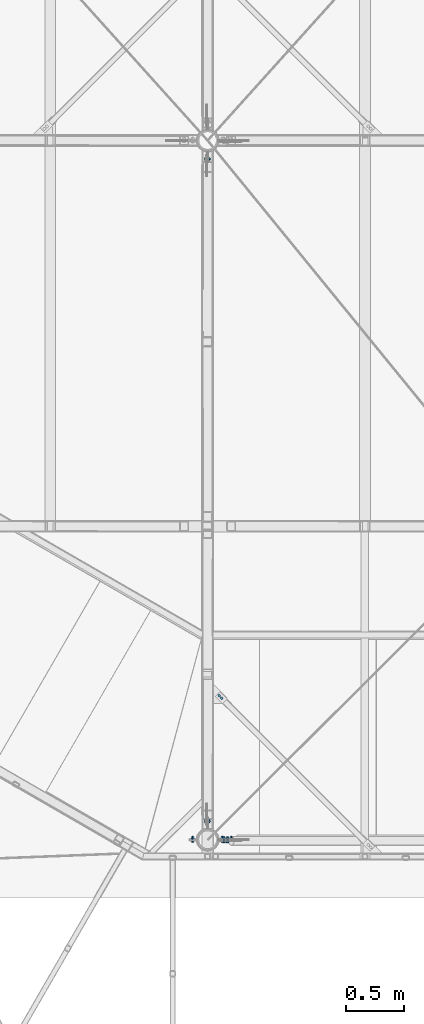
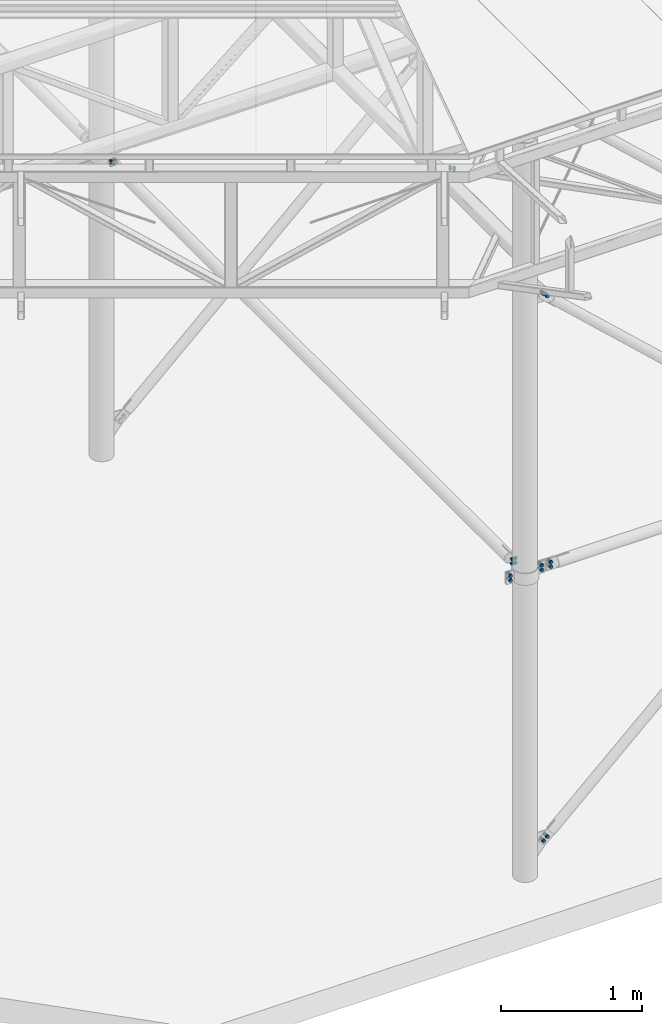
# One storey, part 97 of 132: 8 mechanical fasteners, 6 elements without a shape of their own.
"""IFC2X3 building model written with IfcOpenShell, lengths in millimetres."""

from ifc_helpers import new_model, si_unit, frame, origin_with_axes, origin_2d_with_axis, place, context, subcontext, project, spatial, polyline, circle, outline, extrude, source, transform, mapped, material, type_object, element, aggregate, save


model = new_model("IFC2X3")

# Units and contexts
model_context = context("Model", 3, precision=1e-05, world=origin_with_axes())
body_context = subcontext(model_context, "Body", "Model", "MODEL_VIEW")
ifc_project = project(units=[si_unit("LENGTHUNIT", "METRE", prefix="MILLI"), si_unit("AREAUNIT", "SQUARE_METRE"), si_unit("VOLUMEUNIT", "CUBIC_METRE"), si_unit("MASSUNIT", "GRAM", prefix="KILO"), si_unit("TIMEUNIT", "SECOND"), si_unit("PLANEANGLEUNIT", "RADIAN"), si_unit("SOLIDANGLEUNIT", "STERADIAN"), si_unit("THERMODYNAMICTEMPERATUREUNIT", "DEGREE_CELSIUS"), si_unit("LUMINOUSINTENSITYUNIT", "LUMEN")], contexts=[model_context])

# Site, building, storey
site_placement = place(None, origin_with_axes())
site = spatial("IfcSite", under=ifc_project, at=site_placement, Name="Budowa", CompositionType="ELEMENT")
building_placement = place(site_placement, origin_with_axes())
building = spatial("IfcBuilding", under=site, at=building_placement, Name="Undefined", CompositionType="ELEMENT")
storey_placement = place(building_placement, origin_with_axes())
storey = spatial("IfcBuildingStorey", under=building, at=storey_placement, Name="Undefined", CompositionType="ELEMENT", Elevation=0.0)

# Assembly, mechanical fastener
assembly_1_placement = place(storey_placement, origin_with_axes())
assembly_1 = element("IfcElementAssembly", 1, at=assembly_1_placement, inside=storey, Name="Steel Assembly", AssemblyPlace="NOTDEFINED", PredefinedType="RIGID_FRAME")
ifc_material = material(Name="Undefined")
discrete_accessory_type = type_object("IfcDiscreteAccessoryType", Name="Bolt assembly")
shared_shape_1 = source(origin_with_axes(), body_context, "Body", "SweptSolid", [
    extrude(circle(Radius=9.0, at=origin_2d_with_axis()), frame((0.0, 0.0999999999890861, 0.0), z_axis=(0.0, 1.0, 0.0), x_axis=(1.0, 0.0, 0.0)), (0.0, 0.0, 1.0), 8.0),
    extrude(circle(Radius=9.0, at=origin_2d_with_axis()), frame((0.0, 11.9000000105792, 0.0), z_axis=(0.0, 1.0, 0.0), x_axis=(1.0, 0.0, 0.0)), (0.0, 0.0, 1.0), 8.1),
    extrude(outline(polyline([(13.85640646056, 0.0), (6.92820323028, 12.0000000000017), (-6.92820323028, 12.0000000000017), (-13.85640646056, 0.0), (-6.92820323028, -12.0000000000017), (6.92820323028, -12.0000000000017), (13.85640646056, 0.0)])), frame((0.0, -13.0, 0.0), z_axis=(0.0, 1.0, 0.0), x_axis=(1.0, 0.0, 0.0)), (0.0, 0.0, 1.0), 10.0),
    extrude(circle(Radius=8.0, at=origin_2d_with_axis()), frame((0.0, -2.99999999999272, 0.0), z_axis=(0.0, 1.0, 0.0), x_axis=(1.0, 0.0, 0.0)), (0.0, 0.0, 1.0), 45.0),
    extrude(circle(Radius=15.0, at=origin_2d_with_axis()), frame((0.0, -2.99999999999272, 0.0), z_axis=(0.0, 1.0, 0.0), x_axis=(1.0, 0.0, 0.0)), (0.0, 0.0, 1.0), 3.0),
    extrude(circle(Radius=15.0, at=origin_2d_with_axis()), frame((0.0, 20.0000000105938, 0.0), z_axis=(0.0, 1.0, 0.0), x_axis=(1.0, 0.0, 0.0)), (0.0, 0.0, 1.0), 3.0),
    extrude(outline(polyline([(13.85640646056, 0.0), (6.92820323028, 12.0000000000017), (-6.92820323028, 12.0000000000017), (-13.85640646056, 0.0), (-6.92820323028, -12.0000000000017), (6.92820323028, -12.0000000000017), (13.85640646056, 0.0)])), frame((0.0, 23.0000000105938, 0.0), z_axis=(0.0, 1.0, 0.0), x_axis=(1.0, 0.0, 0.0)), (0.0, 0.0, 1.0), 13.0),
])
mechanical_fastener_1_placement = place(assembly_1_placement, frame((9296.86328710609, -9.999999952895, 10096.0003779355), z_axis=(-1.0, 0.0, 0.0), x_axis=(0.0, 0.0, 1.0)))
mechanical_fastener_1 = element("IfcMechanicalFastener", 2, at=mechanical_fastener_1_placement, type_object=discrete_accessory_type, material=ifc_material, Name="Bolt assembly", NominalDiameter=16.0, NominalLength=45.0, context=body_context, shape_type="MappedRepresentation", body=[
    mapped(shared_shape_1, transform((0.0, 0.0, 0.0))),
    mapped(shared_shape_1, transform((40.0000000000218, 0.0, -1.81898940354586e-12))),
])

# Assembly, mechanical fasteners
assembly_2_placement = place(storey_placement, origin_with_axes())
assembly_2 = element("IfcElementAssembly", 3, at=assembly_2_placement, inside=storey, Name="Steel Assembly", AssemblyPlace="NOTDEFINED", PredefinedType="RIGID_FRAME")
shared_shape_2 = source(origin_with_axes(), body_context, "Body", "SweptSolid", [
    extrude(circle(Radius=9.0, at=origin_2d_with_axis()), frame((0.0, -4.09999999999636, 0.0), z_axis=(0.0, 1.0, 0.0), x_axis=(1.0, 0.0, 0.0)), (0.0, 0.0, 1.0), 8.1),
    extrude(circle(Radius=9.0, at=origin_2d_with_axis()), frame((0.0, -11.9, 0.0), z_axis=(0.0, 1.0, 0.0), x_axis=(1.0, 0.0, 0.0)), (0.0, 0.0, 1.0), 8.0),
    extrude(outline(polyline([(13.85640646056, 0.0), (6.92820323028, 12.0000000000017), (-6.92820323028, 12.0000000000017), (-13.85640646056, 0.0), (-6.92820323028, -12.0000000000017), (6.92820323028, -12.0000000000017), (13.85640646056, 0.0)])), frame((0.0, -25.0, 0.0), z_axis=(0.0, 1.0, 0.0), x_axis=(1.0, 0.0, 0.0)), (0.0, 0.0, 1.0), 10.0),
    extrude(circle(Radius=8.0, at=origin_2d_with_axis()), frame((0.0, -15.0, 0.0), z_axis=(0.0, 1.0, 0.0), x_axis=(1.0, 0.0, 0.0)), (0.0, 0.0, 1.0), 40.0),
    extrude(circle(Radius=15.0, at=origin_2d_with_axis()), frame((0.0, -15.0, 0.0), z_axis=(0.0, 1.0, 0.0), x_axis=(1.0, 0.0, 0.0)), (0.0, 0.0, 1.0), 3.0),
    extrude(circle(Radius=15.0, at=origin_2d_with_axis()), frame((0.0, 4.0, 0.0), z_axis=(0.0, 1.0, 0.0), x_axis=(1.0, 0.0, 0.0)), (0.0, 0.0, 1.0), 3.0),
    extrude(outline(polyline([(13.85640646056, 0.0), (6.92820323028, 12.0000000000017), (-6.92820323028, 12.0000000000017), (-13.85640646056, 0.0), (-6.92820323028, -12.0000000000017), (6.92820323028, -12.0000000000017), (13.85640646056, 0.0)])), frame((0.0, 7.0, 0.0), z_axis=(0.0, 1.0, 0.0), x_axis=(1.0, 0.0, 0.0)), (0.0, 0.0, 1.0), 13.0),
])
mechanical_fastener_2_placement = place(assembly_2_placement, frame((9425.0000024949, 5842.09209471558, 10116.0003779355), z_axis=(0.0, 0.0, 1.0), x_axis=(0.0, -1.0, 0.0)))
mechanical_fastener_2 = element("IfcMechanicalFastener", 4, at=mechanical_fastener_2_placement, type_object=discrete_accessory_type, material=ifc_material, Name="Bolt assembly", NominalDiameter=16.0, NominalLength=40.0, context=body_context, shape_type="MappedRepresentation", body=[
    mapped(shared_shape_2, transform((0.0, 0.0, -20.0))),
    mapped(shared_shape_2, transform((0.0, 0.0, 20.0))),
])
mechanical_fastener_3_placement = place(assembly_2_placement, frame((9425.00000277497, 157.907905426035, 10116.0003779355), z_axis=(0.0, 0.0, -1.0), x_axis=(0.0, 1.0, 0.0)))
mechanical_fastener_3 = element("IfcMechanicalFastener", 5, at=mechanical_fastener_3_placement, type_object=discrete_accessory_type, material=ifc_material, Name="Bolt assembly", NominalDiameter=16.0, NominalLength=40.0, context=body_context, shape_type="MappedRepresentation", body=[
    mapped(shared_shape_2, transform((0.0, 0.0, -20.0))),
    mapped(shared_shape_2, transform((0.0, 0.0, 20.0))),
])
aggregate(assembly_2, [mechanical_fastener_2, mechanical_fastener_3])

# Mechanical fastener
shared_shape_3 = source(origin_with_axes(), body_context, "Body", "SweptSolid", [
    extrude(circle(Radius=9.0, at=origin_2d_with_axis()), frame((0.0, 0.0999999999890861, 0.0), z_axis=(0.0, 1.0, 0.0), x_axis=(1.0, 0.0, 0.0)), (0.0, 0.0, 1.0), 8.0),
    extrude(circle(Radius=9.0, at=origin_2d_with_axis()), frame((0.0, 7.9000007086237, 0.0), z_axis=(0.0, 1.0, 0.0), x_axis=(1.0, 0.0, 0.0)), (0.0, 0.0, 1.0), 8.1),
    extrude(outline(polyline([(13.85640646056, 0.0), (6.92820323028, 12.0000000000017), (-6.92820323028, 12.0000000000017), (-13.85640646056, 0.0), (-6.92820323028, -12.0000000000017), (6.92820323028, -12.0000000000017), (13.85640646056, 0.0)])), frame((0.0, -13.0, 0.0), z_axis=(0.0, 1.0, 0.0), x_axis=(1.0, 0.0, 0.0)), (0.0, 0.0, 1.0), 10.0),
    extrude(circle(Radius=8.0, at=origin_2d_with_axis()), frame((0.0, -2.99999999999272, 0.0), z_axis=(0.0, 1.0, 0.0), x_axis=(1.0, 0.0, 0.0)), (0.0, 0.0, 1.0), 40.0),
    extrude(circle(Radius=15.0, at=origin_2d_with_axis()), frame((0.0, -2.99999999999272, 0.0), z_axis=(0.0, 1.0, 0.0), x_axis=(1.0, 0.0, 0.0)), (0.0, 0.0, 1.0), 3.0),
    extrude(circle(Radius=15.0, at=origin_2d_with_axis()), frame((0.0, 16.0000007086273, 0.0), z_axis=(0.0, 1.0, 0.0), x_axis=(1.0, 0.0, 0.0)), (0.0, 0.0, 1.0), 3.0),
    extrude(outline(polyline([(13.85640646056, 0.0), (6.92820323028, 12.0000000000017), (-6.92820323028, 12.0000000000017), (-13.85640646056, 0.0), (-6.92820323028, -12.0000000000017), (6.92820323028, -12.0000000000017), (13.85640646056, 0.0)])), frame((0.0, 19.0000007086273, 0.0), z_axis=(0.0, 1.0, 0.0), x_axis=(1.0, 0.0, 0.0)), (0.0, 0.0, 1.0), 13.0),
])
mechanical_fastener_4_placement = place(assembly_1_placement, frame((9628.13669408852, -6.00000054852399, 10096.0003779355), z_axis=(-1.0, 0.0, 0.0), x_axis=(0.0, 0.0, 1.0)))
mechanical_fastener_4 = element("IfcMechanicalFastener", 6, at=mechanical_fastener_4_placement, type_object=discrete_accessory_type, material=ifc_material, Name="Bolt assembly", NominalDiameter=16.0, NominalLength=40.0, context=body_context, shape_type="MappedRepresentation", body=[
    mapped(shared_shape_3, transform((0.0, 0.0, 0.0))),
    mapped(shared_shape_3, transform((40.0000000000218, 0.0, -1.81898940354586e-12))),
])

aggregate(assembly_1, [mechanical_fastener_4, mechanical_fastener_1])

# Assembly, mechanical fastener
assembly_3_placement = place(storey_placement, origin_with_axes())
assembly_3 = element("IfcElementAssembly", 7, at=assembly_3_placement, inside=storey, Name="Steel Assembly", AssemblyPlace="NOTDEFINED", PredefinedType="RIGID_FRAME")
shared_shape_4 = source(origin_with_axes(), body_context, "Body", "SweptSolid", [
    extrude(circle(Radius=9.0, at=origin_2d_with_axis()), frame((0.0, 11.9000000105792, 0.0), z_axis=(0.0, 1.0, 0.0), x_axis=(1.0, 0.0, 0.0)), (0.0, 0.0, 1.0), 8.1),
    extrude(circle(Radius=9.0, at=origin_2d_with_axis()), frame((0.0, 0.0999999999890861, 0.0), z_axis=(0.0, 1.0, 0.0), x_axis=(1.0, 0.0, 0.0)), (0.0, 0.0, 1.0), 8.0),
    extrude(outline(polyline([(13.85640646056, 0.0), (6.92820323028, 12.0000000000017), (-6.92820323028, 12.0000000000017), (-13.85640646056, 0.0), (-6.92820323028, -12.0000000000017), (6.92820323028, -12.0000000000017), (13.85640646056, 0.0)])), frame((0.0, -13.0, 0.0), z_axis=(0.0, 1.0, 0.0), x_axis=(1.0, 0.0, 0.0)), (0.0, 0.0, 1.0), 10.0),
    extrude(circle(Radius=8.0, at=origin_2d_with_axis()), frame((0.0, -2.99999999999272, 0.0), z_axis=(0.0, 1.0, 0.0), x_axis=(1.0, 0.0, 0.0)), (0.0, 0.0, 1.0), 45.0),
    extrude(circle(Radius=15.0, at=origin_2d_with_axis()), frame((0.0, -2.99999999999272, 0.0), z_axis=(0.0, 1.0, 0.0), x_axis=(1.0, 0.0, 0.0)), (0.0, 0.0, 1.0), 3.0),
    extrude(circle(Radius=15.0, at=origin_2d_with_axis()), frame((0.0, 20.0000000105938, 0.0), z_axis=(0.0, 1.0, 0.0), x_axis=(1.0, 0.0, 0.0)), (0.0, 0.0, 1.0), 3.0),
    extrude(outline(polyline([(13.85640646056, 0.0), (6.92820323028, 12.0000000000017), (-6.92820323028, 12.0000000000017), (-13.85640646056, 0.0), (-6.92820323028, -12.0000000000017), (6.92820323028, -12.0000000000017), (13.85640646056, 0.0)])), frame((0.0, 23.0000000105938, 0.0), z_axis=(0.0, 1.0, 0.0), x_axis=(1.0, 0.0, 0.0)), (0.0, 0.0, 1.0), 13.0),
])
mechanical_fastener_5_placement = place(assembly_3_placement, frame((9553.13669408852, -10.0000000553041, 10096.0003779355), z_axis=(-1.0, 0.0, 0.0), x_axis=(0.0, 0.0, 1.0)))
mechanical_fastener_5 = element("IfcMechanicalFastener", 8, at=mechanical_fastener_5_placement, type_object=discrete_accessory_type, material=ifc_material, Name="Bolt assembly", NominalDiameter=16.0, NominalLength=45.0, context=body_context, shape_type="MappedRepresentation", body=[
    mapped(shared_shape_4, transform((0.0, 0.0, 0.0))),
    mapped(shared_shape_4, transform((40.0000000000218, 0.0, -1.81898940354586e-12))),
])
aggregate(assembly_3, [mechanical_fastener_5])

assembly_4_placement = place(storey_placement, origin_with_axes())
assembly_4 = element("IfcElementAssembly", 9, at=assembly_4_placement, inside=storey, Name="Steel Assembly", AssemblyPlace="NOTDEFINED", PredefinedType="RIGID_FRAME")
shared_shape_5 = source(origin_with_axes(), body_context, "Body", "SweptSolid", [
    extrude(circle(Radius=9.5, at=origin_2d_with_axis()), frame((0.0, -2.10099750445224, 0.0), z_axis=(0.0, 1.0, 0.0), x_axis=(1.0, 0.0, 0.0)), (0.0, 0.0, 1.0), 8.1),
    extrude(circle(Radius=9.5, at=origin_2d_with_axis()), frame((0.0, -11.9, 0.0), z_axis=(0.0, 1.0, 0.0), x_axis=(1.0, 0.0, 0.0)), (0.0, 0.0, 1.0), 8.0),
    extrude(outline(polyline([(13.85640646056, 0.0), (6.92820323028, 12.0000000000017), (-6.92820323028, 12.0000000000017), (-13.85640646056, 0.0), (-6.92820323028, -12.0000000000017), (6.92820323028, -12.0000000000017), (13.85640646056, 0.0)])), frame((0.0, -25.0, 0.0), z_axis=(0.0, 1.0, 0.0), x_axis=(1.0, 0.0, 0.0)), (0.0, 0.0, 1.0), 10.0),
    extrude(circle(Radius=8.0, at=origin_2d_with_axis()), frame((0.0, -15.0, 0.0), z_axis=(0.0, 1.0, 0.0), x_axis=(1.0, 0.0, 0.0)), (0.0, 0.0, 1.0), 45.0),
    extrude(circle(Radius=15.0, at=origin_2d_with_axis()), frame((0.0, -15.0, 0.0), z_axis=(0.0, 1.0, 0.0), x_axis=(1.0, 0.0, 0.0)), (0.0, 0.0, 1.0), 3.0),
    extrude(circle(Radius=15.0, at=origin_2d_with_axis()), frame((0.0, 5.99900249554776, 0.0), z_axis=(0.0, 1.0, 0.0), x_axis=(1.0, 0.0, 0.0)), (0.0, 0.0, 1.0), 3.0),
    extrude(outline(polyline([(13.85640646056, 0.0), (6.92820323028, 12.0000000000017), (-6.92820323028, 12.0000000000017), (-13.85640646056, 0.0), (-6.92820323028, -12.0000000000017), (6.92820323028, -12.0000000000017), (13.85640646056, 0.0)])), frame((0.0, 8.99900249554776, 0.0), z_axis=(0.0, 1.0, 0.0), x_axis=(1.0, 0.0, 0.0)), (0.0, 0.0, 1.0), 13.0),
])
mechanical_fastener_6_placement = place(assembly_4_placement, frame((9565.67385240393, -2.00000237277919, 7751.79053481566), z_axis=(-0.678551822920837, 0.0, 0.734552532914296), x_axis=(0.734552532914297, 0.0, 0.678551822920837)))
mechanical_fastener_6 = element("IfcMechanicalFastener", 10, at=mechanical_fastener_6_placement, type_object=discrete_accessory_type, material=ifc_material, Name="Bolt assembly", NominalDiameter=16.0, NominalLength=45.0, context=body_context, shape_type="MappedRepresentation", body=[
    mapped(shared_shape_5, transform((0.0, 0.0, 0.0))),
    mapped(shared_shape_5, transform((40.0000000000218, 0.0, -1.81898940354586e-12))),
])
aggregate(assembly_4, [mechanical_fastener_6])

assembly_5_placement = place(storey_placement, origin_with_axes())
assembly_5 = element("IfcElementAssembly", 11, at=assembly_5_placement, inside=storey, Name="Steel Assembly", AssemblyPlace="NOTDEFINED", PredefinedType="RIGID_FRAME")
mechanical_fastener_7_placement = place(assembly_5_placement, frame((9565.67385217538, -2.00000247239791, 12480.2102217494), z_axis=(0.678551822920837, 0.0, 0.734552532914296), x_axis=(0.734552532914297, 0.0, -0.678551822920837)))
mechanical_fastener_7 = element("IfcMechanicalFastener", 12, at=mechanical_fastener_7_placement, type_object=discrete_accessory_type, material=ifc_material, Name="Bolt assembly", NominalDiameter=16.0, NominalLength=45.0, context=body_context, shape_type="MappedRepresentation", body=[
    mapped(shared_shape_5, transform((0.0, 0.0, 0.0))),
    mapped(shared_shape_5, transform((40.0000000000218, 0.0, -1.81898940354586e-12))),
])
aggregate(assembly_5, [mechanical_fastener_7])

assembly_6_placement = place(storey_placement, origin_with_axes())
assembly_6 = element("IfcElementAssembly", 13, at=assembly_6_placement, inside=storey, Name="Steel Assembly", AssemblyPlace="NOTDEFINED", PredefinedType="RIGID_FRAME")
shared_shape_6 = source(origin_with_axes(), body_context, "Body", "SweptSolid", [
    extrude(circle(Radius=6.5, at=origin_2d_with_axis()), frame((0.0, -3.1, 0.0), z_axis=(0.0, 1.0, 0.0), x_axis=(1.0, 0.0, 0.0)), (0.0, 0.0, 1.0), 6.1),
    extrude(circle(Radius=6.5, at=origin_2d_with_axis()), frame((0.0, -8.9, 0.0), z_axis=(0.0, 1.0, 0.0), x_axis=(1.0, 0.0, 0.0)), (0.0, 0.0, 1.0), 6.0),
    extrude(outline(polyline([(10.39230484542, 0.0), (5.19615242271, 9.00000000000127), (-5.19615242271, 9.00000000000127), (-10.39230484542, 0.0), (-5.19615242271, -9.00000000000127), (5.19615242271, -9.00000000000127), (10.39230484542, 0.0)])), frame((0.0, -19.5, 0.0), z_axis=(0.0, 1.0, 0.0), x_axis=(1.0, 0.0, 0.0)), (0.0, 0.0, 1.0), 7.5),
    extrude(circle(Radius=6.0, at=origin_2d_with_axis()), frame((0.0, -12.0, 0.0), z_axis=(0.0, 1.0, 0.0), x_axis=(1.0, 0.0, 0.0)), (0.0, 0.0, 1.0), 35.0),
    extrude(circle(Radius=12.0, at=origin_2d_with_axis()), frame((0.0, -12.0, 0.0), z_axis=(0.0, 1.0, 0.0), x_axis=(1.0, 0.0, 0.0)), (0.0, 0.0, 1.0), 3.0),
    extrude(circle(Radius=12.0, at=origin_2d_with_axis()), frame((0.0, 3.0, 0.0), z_axis=(0.0, 1.0, 0.0), x_axis=(1.0, 0.0, 0.0)), (0.0, 0.0, 1.0), 3.0),
    extrude(outline(polyline([(10.96965511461, 0.0), (5.484827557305, 9.50000000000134), (-5.484827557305, 9.50000000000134), (-10.96965511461, 0.0), (-5.484827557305, -9.50000000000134), (5.484827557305, -9.50000000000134), (10.96965511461, 0.0)])), frame((0.0, 6.0, 0.0), z_axis=(0.0, 1.0, 0.0), x_axis=(1.0, 0.0, 0.0)), (0.0, 0.0, 1.0), 10.0),
])
mechanical_fastener_8_placement = place(assembly_6_placement, frame((9524.35534088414, 1235.54465916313, 12824.0), z_axis=(0.707106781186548, 0.707106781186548, 0.0), x_axis=(0.707106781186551, -0.707106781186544, 0.0)))
mechanical_fastener_8 = element("IfcMechanicalFastener", 14, at=mechanical_fastener_8_placement, type_object=discrete_accessory_type, material=ifc_material, Name="Bolt assembly", NominalDiameter=12.0, NominalLength=35.0, context=body_context, shape_type="MappedRepresentation", body=[
    mapped(shared_shape_6, transform((0.0, 0.0, 0.0))),
    mapped(shared_shape_6, transform((29.9999999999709, 0.0, -1.16415321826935e-10))),
])
aggregate(assembly_6, [mechanical_fastener_8])

save(model, "model.ifc")
